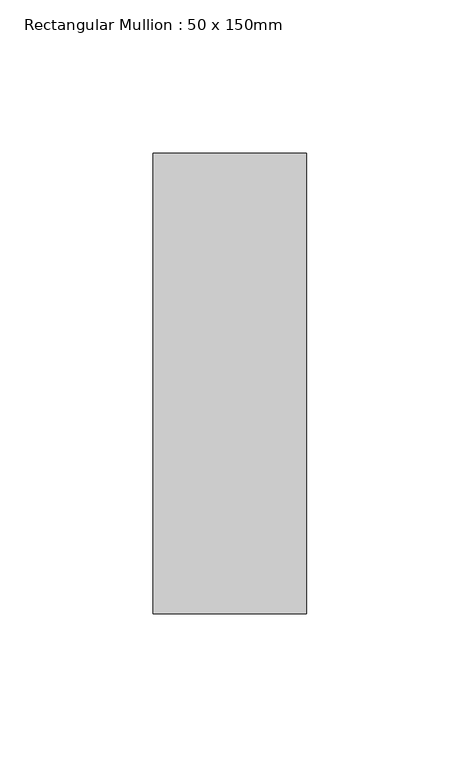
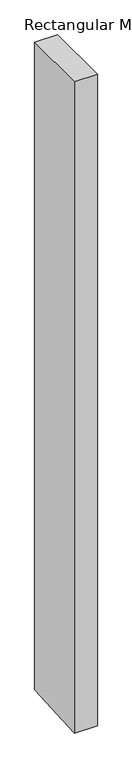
"""IFC4 building model written with IfcOpenShell, lengths in millimetres: member geometry, Rectangular Mullion : 50 x 150mm."""

from ifc_helpers import new_model, si_unit, frame, origin, place, context, project, spatial, polyline, outline, extrude, source, transform, mapped, element, save


def rectangular_mullion_50_x_150mm_8f23feb4(model_context):
    return source(origin(), model_context, "Body", "SweptSolid", [
        extrude(outline(polyline([(-75.0, 0.0), (75.0, 0.0), (75.0, -1492.718686), (-75.0, -1502.2056089), (-75.0, 0.0)])), frame((-25.0, 0.0, 0.0), z_axis=(1.0, 0.0, 0.0), x_axis=(0.0, 1.0, 0.0)), (0.0, 0.0, 1.0), 50.0),
    ])


if __name__ == "__main__":
    model = new_model("IFC4")
    model_context = context("Model", 3, world=origin())
    ifc_project = project(units=[si_unit("LENGTHUNIT", "METRE", prefix="MILLI")], contexts=[model_context])
    site = spatial("IfcSite", under=ifc_project)
    building = spatial("IfcBuilding", under=site)
    placement = place(None, origin())
    rectangular_mullion_50_x_150mm_shape = rectangular_mullion_50_x_150mm_8f23feb4(model_context)
    element("IfcMember", 1, ObjectType="Rectangular Mullion : 50 x 150mm", at=placement, inside=building, context=model_context, shape_type="MappedRepresentation", body=[
        mapped(rectangular_mullion_50_x_150mm_shape, transform((0.0, 0.0, 0.0), x_axis=(1.0, 0.0, 0.0), y_axis=(0.0, 1.0, 0.0), z_axis=(0.0, 0.0, 1.0))),
    ])
    save(model, "model.ifc")
